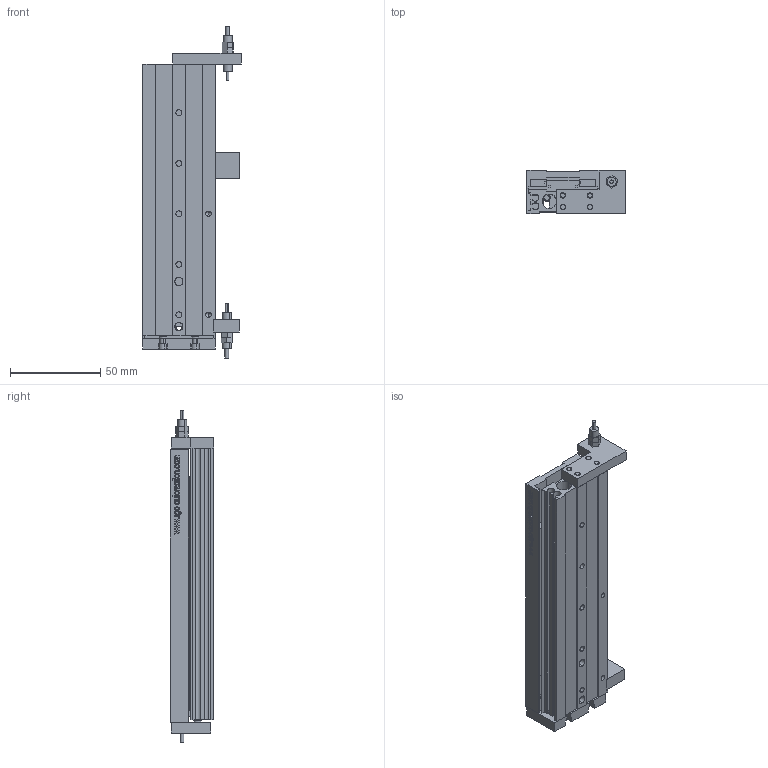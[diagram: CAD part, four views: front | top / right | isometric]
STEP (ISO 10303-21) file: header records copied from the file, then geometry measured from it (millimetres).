
FILE_DESCRIPTION (( 'STEP AP203' ), '1' );
FILE_NAME ('GDX 8-75.STEP', '2013-02-22T10:58:00', ( 'Conseil Régional Haute-Normandie' ), ( 'Conseil Régional Haute-Normandie' ), 'SwSTEP 2.0', 'SolidWorks 2010', '' );
FILE_SCHEMA (( 'CONFIG_CONTROL_DESIGN' ));
Length unit declared in the file: millimetre
Products named in the file (14): GDX 8-75; Pièce1 GDX 8-10_Default; Pièce2 GDX 8-10_Default; Pièce8 GDX 8-10_Default; Pièce9 GDX 8-10_Default; Pièce6 GDX 8-10_Default; Pièce 10 GDX 8-75_Default; Pièce 12 GDX 8-75_Default; Pièce13 GDX 8-75_Default; Pièce11 GDX 8-75_Default; Pièce3 GDX 8-10_Default; Pièce4 GDX 8-10_Default; Pièce5 GDX 8-10_Default; Pièce7 GDX 8-10_Default
Assembly tree (27 placements, depth 2):
  GDX 8-75
    Pièce6 GDX 8-10_Default  x8
    Pièce 12 GDX 8-75_Default
    Pièce5 GDX 8-10_Default  x4
    Pièce8 GDX 8-10_Default  x2
    Pièce11 GDX 8-75_Default
    Pièce4 GDX 8-10_Default  x2
    Pièce13 GDX 8-75_Default  x2
    Pièce 10 GDX 8-75_Default
    Pièce1 GDX 8-10_Default
    Pièce9 GDX 8-10_Default  x2
    Pièce2 GDX 8-10_Default
    Pièce7 GDX 8-10_Default
    Pièce3 GDX 8-10_Default
Bounding box: 54.5 x 24 x 183.97 mm (x, y, z)
Volume: 109493.1 mm3; surface area: 71661.8 mm2
Topology: 27 solids, 27 shells, 750 faces, 1902 edges, 1239 vertices
Faces by surface type: plane 381, cylinder 202, bspline 133, cone 34
Entity records: 31060 total; most frequent: CARTESIAN_POINT 14253, ORIENTED_EDGE 3244, DIRECTION 2696, EDGE_CURVE 1622, VERTEX_POINT 1075, VECTOR 1064, LINE 1064, AXIS2_PLACEMENT_3D 816
